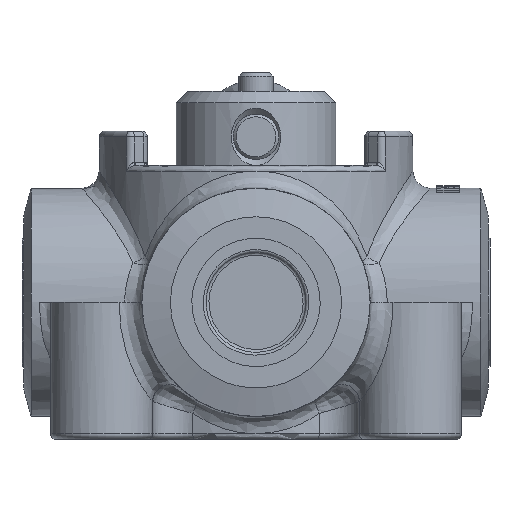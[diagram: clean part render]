
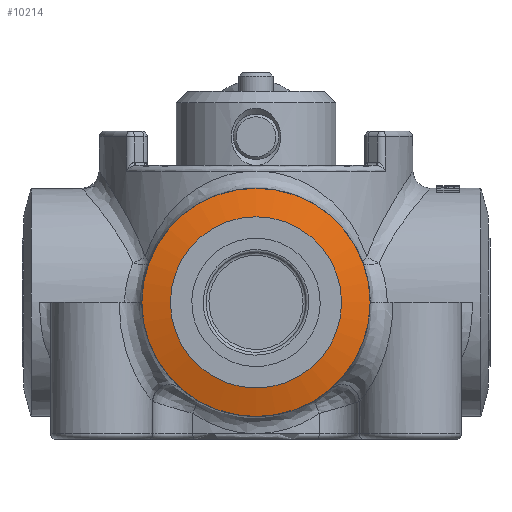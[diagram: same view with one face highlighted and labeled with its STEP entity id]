
A CAD part, left-side view. The second image highlights one B-rep face of the part: STEP entity #10214.
In plain terms, the highlighted conical face has half-angle 75 degrees and reference radius 17 mm.
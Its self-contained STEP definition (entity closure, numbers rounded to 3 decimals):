
#230=CARTESIAN_POINT('',(-40.732,15.,24.));
#231=VERTEX_POINT('',#230);
#232=CARTESIAN_POINT('',(-40.732,0.,24.));
#233=DIRECTION('',(1.0,0.0,0.0));
#234=DIRECTION('',(0.0,-1.0,0.0));
#235=AXIS2_PLACEMENT_3D('',#232,#233,#234);
#236=CIRCLE('',#235,15.0);
#237=EDGE_CURVE('',#231,#231,#236,.T.);
#5820=CARTESIAN_POINT('',(-39.392,20.,24.0));
#5821=VERTEX_POINT('',#5820);
#5822=CARTESIAN_POINT('',(-39.392,0.,24.));
#5823=DIRECTION('',(-1.0,0.0,0.0));
#5824=DIRECTION('',(0.0,-1.0,0.0));
#5825=AXIS2_PLACEMENT_3D('',#5822,#5823,#5824);
#5826=CIRCLE('',#5825,20.0);
#5827=EDGE_CURVE('',#5821,#5821,#5826,.T.);
#10203=CARTESIAN_POINT('',(-40.196,0.,24.));
#10204=DIRECTION('',(1.0,0.0,0.0));
#10205=DIRECTION('',(0.0,-1.0,0.0));
#10206=AXIS2_PLACEMENT_3D('',#10203,#10204,#10205);
#10207=CONICAL_SURFACE('',#10206,17.0,75.);
#10208=ORIENTED_EDGE('',*,*,#237,.T.);
#10209=EDGE_LOOP('',(#10208));
#10210=FACE_OUTER_BOUND('',#10209,.T.);
#10211=ORIENTED_EDGE('',*,*,#5827,.T.);
#10212=EDGE_LOOP('',(#10211));
#10213=FACE_BOUND('',#10212,.T.);
#10214=ADVANCED_FACE('',(#10210,#10213),#10207,.T.);
